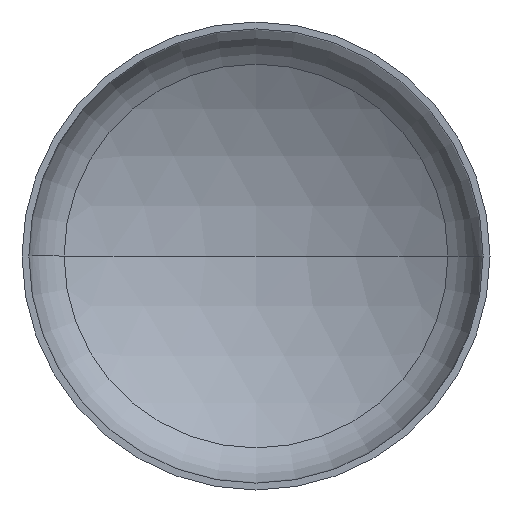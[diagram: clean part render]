
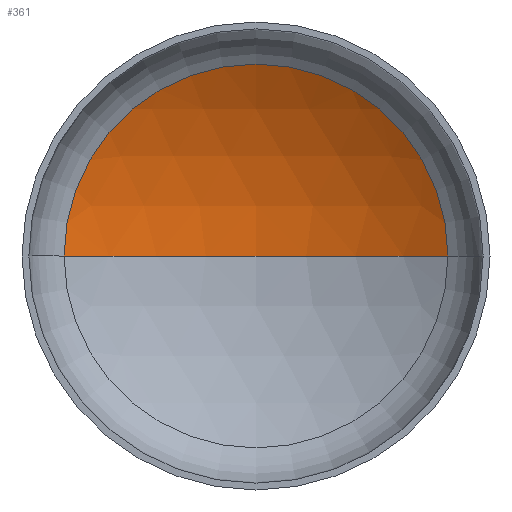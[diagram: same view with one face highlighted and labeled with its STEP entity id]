
A CAD part, front view. The second image highlights one B-rep face of the part: STEP entity #361.
In plain terms, the highlighted spherical face has radius 3600 mm.
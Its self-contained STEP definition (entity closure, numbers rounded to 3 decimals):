
#9 = CARTESIAN_POINT ( 'NONE',  ( -1845.232, 716.761, 0. ) ) ;
#21 = VERTEX_POINT ( 'NONE', #52 ) ;
#32 = AXIS2_PLACEMENT_3D ( 'NONE', #281, #99, #303 ) ;
#36 = AXIS2_PLACEMENT_3D ( 'NONE', #344, #220, #366 ) ;
#41 = AXIS2_PLACEMENT_3D ( 'NONE', #94, #301, #158 ) ;
#52 = CARTESIAN_POINT ( 'NONE',  ( 1845.232, 716.761, 0. ) ) ;
#77 = ORIENTED_EDGE ( 'NONE', *, *, #85, .T. ) ;
#80 = ORIENTED_EDGE ( 'NONE', *, *, #115, .F. ) ;
#85 = EDGE_CURVE ( 'NONE', #21, #164, #320, .T. ) ;
#94 = CARTESIAN_POINT ( 'NONE',  ( 0., 716.761, 0. ) ) ;
#99 = DIRECTION ( 'NONE',  ( 0., 0., 1. ) ) ;
#104 = EDGE_CURVE ( 'NONE', #184, #21, #118, .T. ) ;
#114 = CARTESIAN_POINT ( 'NONE',  ( 0., -2374.374, 0. ) ) ;
#115 = EDGE_CURVE ( 'NONE', #184, #164, #267, .T. ) ;
#118 = CIRCLE ( 'NONE', #36, 3600. ) ;
#158 = DIRECTION ( 'NONE',  ( 1., 0., 0. ) ) ;
#164 = VERTEX_POINT ( 'NONE', #9 ) ;
#167 = EDGE_LOOP ( 'NONE', ( #80, #294, #77 ) ) ;
#177 = DIRECTION ( 'NONE',  ( -1., 0., 0. ) ) ;
#184 = VERTEX_POINT ( 'NONE', #221 ) ;
#220 = DIRECTION ( 'NONE',  ( 0., 0., -1. ) ) ;
#221 = CARTESIAN_POINT ( 'NONE',  ( 0., 1225.626, 0. ) ) ;
#232 = SPHERICAL_SURFACE ( 'NONE', #407, 3600. ) ;
#267 = CIRCLE ( 'NONE', #32, 3600. ) ;
#281 = CARTESIAN_POINT ( 'NONE',  ( 0., -2374.374, 0. ) ) ;
#294 = ORIENTED_EDGE ( 'NONE', *, *, #104, .T. ) ;
#301 = DIRECTION ( 'NONE',  ( 0., -1., 0. ) ) ;
#303 = DIRECTION ( 'NONE',  ( 1., 0., 0. ) ) ;
#320 = CIRCLE ( 'NONE', #41, 1845.232 ) ;
#344 = CARTESIAN_POINT ( 'NONE',  ( 0., -2374.374, 0. ) ) ;
#352 = DIRECTION ( 'NONE',  ( 0., 0., -1. ) ) ;
#361 = ADVANCED_FACE ( 'NONE', ( #402 ), #232, .F. ) ;
#366 = DIRECTION ( 'NONE',  ( -1., 0., 0. ) ) ;
#402 = FACE_OUTER_BOUND ( 'NONE', #167, .T. ) ;
#407 = AXIS2_PLACEMENT_3D ( 'NONE', #114, #352, #177 ) ;
